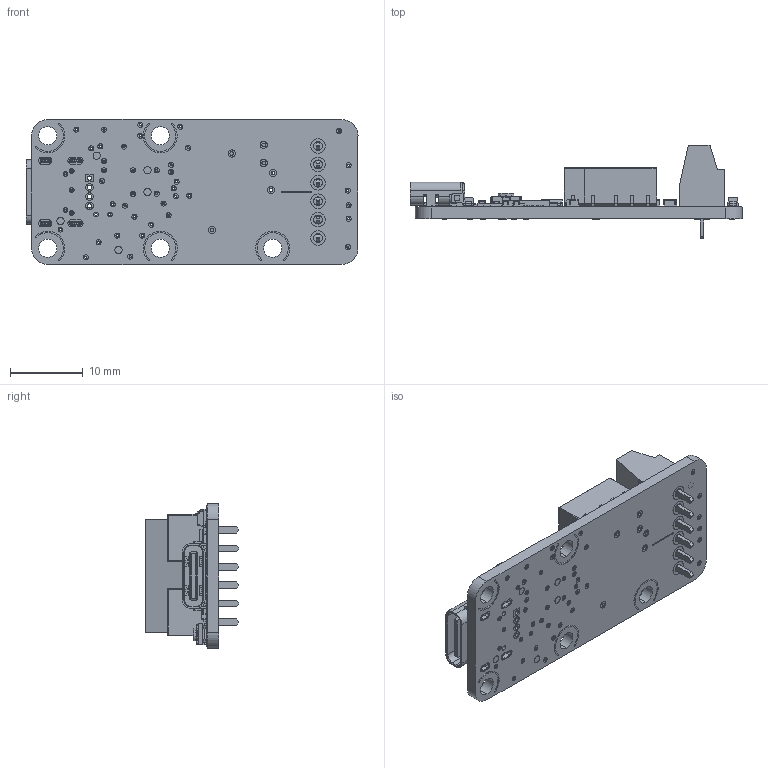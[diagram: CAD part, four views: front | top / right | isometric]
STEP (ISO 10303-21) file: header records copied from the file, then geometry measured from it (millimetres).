
FILE_DESCRIPTION (( 'STEP AP214' ), '1' );
FILE_NAME ('RLAYLO1C.STEP', '2025-05-05T12:56:25', ( '' ), ( '' ), 'SwSTEP 2.0', 'SolidWorks 2008', '' );
FILE_SCHEMA (( 'AUTOMOTIVE_DESIGN' ));
Length unit declared in the file: millimetre
Products named in the file (25): PCB; C2; RLAYLO1C; C18; P2; T2; R10; R1; SW1; R5; R9; REG1; led2outB; USB1; C6; SW3; R4; C16; R2; U1; R12; iSENSE; C19; R11; YLED
Assembly tree (36 placements, depth 2):
  RLAYLO1C
    YLED
    R5
    C6  x4
    R11  x2
    SW1
    U1
    SW3  x2
    led2outB  x4
    C16
    REG1
    R2
    R10
    R9  x4
    P2
    C18
    C2
    PCB
    T2  x2
    R12
    R4
    USB1
    R1
    C19
    iSENSE
Bounding box: 45.75 x 12.9 x 20 mm (x, y, z)
Volume: 2943.8 mm3; surface area: 4549.5 mm2
Topology: 49 solids, 49 shells, 5790 faces, 15190 edges, 9841 vertices
Faces by surface type: plane 3690, cylinder 1430, bspline 537, sphere 114, cone 12, torus 7
Entity records: 212507 total; most frequent: CARTESIAN_POINT 50119, ORIENTED_EDGE 24882, DIRECTION 22870, EDGE_CURVE 12441, VECTOR 9058, LINE 9058, VERTEX_POINT 8173, AXIS2_PLACEMENT_3D 6906
